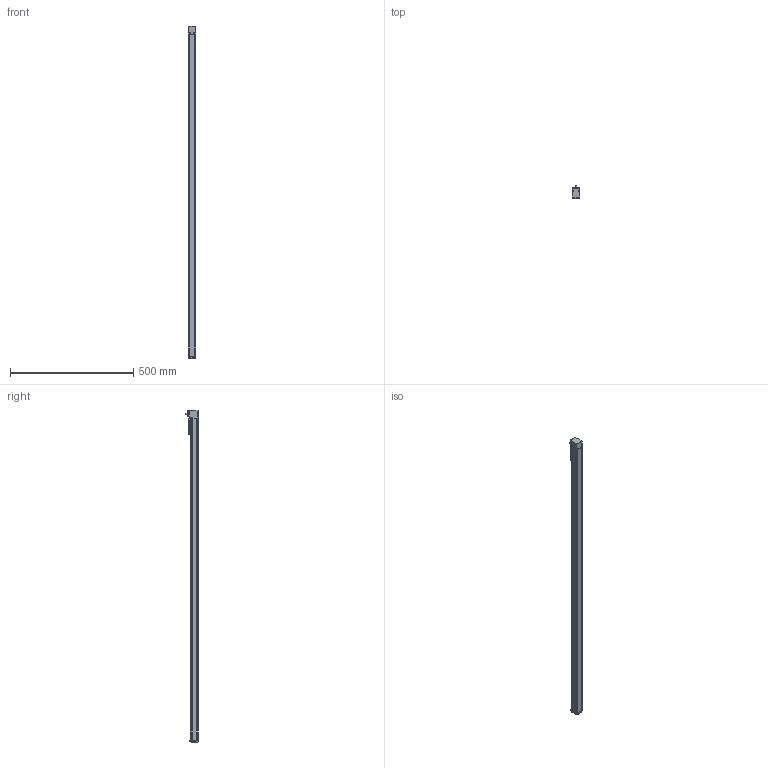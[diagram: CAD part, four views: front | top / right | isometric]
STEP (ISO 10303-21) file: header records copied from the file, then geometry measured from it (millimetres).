
FILE_DESCRIPTION(/* description */ ('STEP AP214'),/* implementation_level */ '2;1');
FILE_NAME(/* name */ 'MGTB 32 1200(0)',/* time_stamp */ '2023-04-17T13:35:18+02:00',/* author */ ('License CC BY-ND 4.0'),/* organization */ ('CADENAS'),/* preprocessor_version */ 'ST-DEVELOPER v19.3',/* originating_system */ 'PARTsolutions',/* authorisation */ ' ');
FILE_SCHEMA (('AUTOMOTIVE_DESIGN {1 0 10303 214 3 1 1}'));
Length unit declared in the file: millimetre
Products named in the file (6): MGTB 32 1200(0); MGTB 32 1200_protection_strip; MGTB 32_carriage; MGTB 32_end_block; MGTB 32 1200_profile; MGTB 32_drive_block
Assembly tree (5 placements, depth 2):
  MGTB 32 1200(0)
    MGTB 32 1200_protection_strip
    MGTB 32_carriage
    MGTB 32_end_block
    MGTB 32 1200_profile
    MGTB 32_drive_block
Bounding box: 32 x 51.75 x 1344.75 mm (x, y, z)
Volume: 1263640.5 mm3; surface area: 299655.7 mm2
Topology: 5 solids, 5 shells, 664 faces, 1755 edges, 1129 vertices
Faces by surface type: plane 316, cylinder 171, cone 90, bspline 60, torus 25, sphere 2
Full cylindrical faces by diameter (mm): 1.155 x1, 1.567 x4, 1.755 x4, 1.8 x2, 2 x2, 2.3 x4, 2.459 x8, 2.46 x4, 2.5 x11, 3 x1, 3.8 x4, 4.5 x4, 5 x3, 7 x1, 7.5 x1, 9.6 x1, 19.5 x1, 25 x2
Entity records: 24513 total; most frequent: CARTESIAN_POINT 4239, DIRECTION 3359, ORIENTED_EDGE 3170, EDGE_CURVE 1585, AXIS2_PLACEMENT_3D 1204, VERTEX_POINT 1116, LINE 951, VECTOR 951
